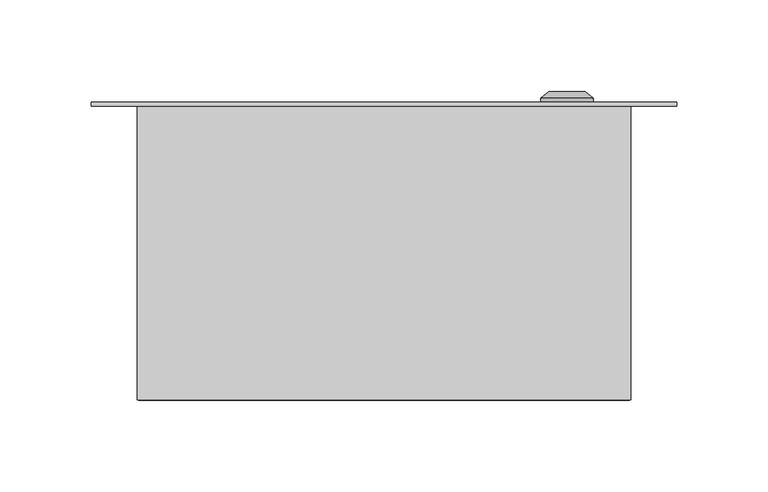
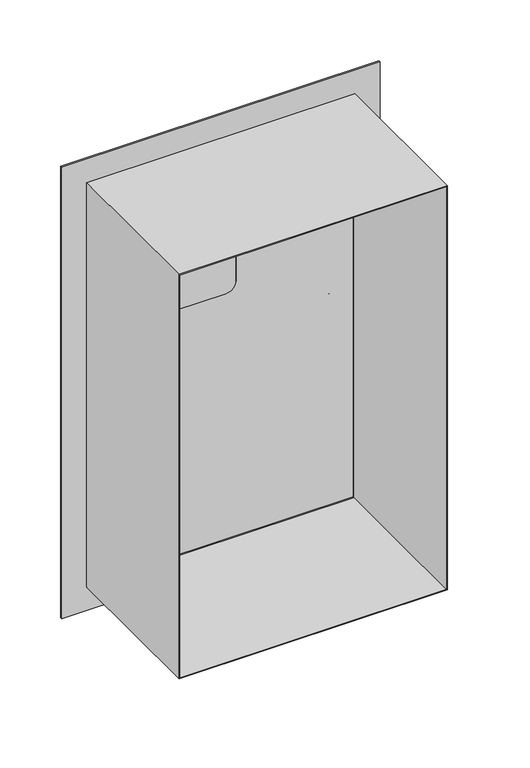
"""IFC4 building model written with IfcOpenShell, lengths in millimetres: proxy geometry, ЩУРВ-1_12 : ЩУРВ-1/12."""

import ifcopenshell
import ifcopenshell.guid

model = None  # the IFC model being written
_history = None  # IfcOwnerHistory: only IFC2X3 demands one
_inside = {}  # id of a spatial element -> (the spatial element, [elements in it])
_under = {}  # id of a project, library or spatial element -> (it, [spatial elements below it])
_declared = {}  # id of a project -> (the project, [libraries it declares])
_typed = {}  # id of a type object -> (the type object, [elements of that type])
_made_of = {}  # id of a material, layer set ... -> (it, [elements and type objects made of it])


def new_model(schema):
    """Start an empty IFC model of exactly this schema.

    Asked for "IFC4X3", IfcOpenShell would pick the latest addendum, in which some entities
    have other attributes; the version numbers below select the first issue.
    IFC2X3 requires an IfcOwnerHistory on every rooted entity: one is made here for all.
    """
    global model, _history
    if schema == "IFC4X3":
        model = ifcopenshell.file(schema_version=(4, 3, 0, 0))
    else:
        model = ifcopenshell.file(schema=schema)
    _inside.clear()
    _under.clear()
    _declared.clear()
    _typed.clear()
    _made_of.clear()
    _history = None
    if model.schema == "IFC2X3":
        org = make("IfcOrganization", Name="unknown")
        user = make(
            "IfcPersonAndOrganization",
            ThePerson=make("IfcPerson", FamilyName="unknown"),
            TheOrganization=org,
        )
        app = make(
            "IfcApplication",
            ApplicationDeveloper=org,
            Version="unknown",
            ApplicationFullName="unknown",
            ApplicationIdentifier="unknown",
        )
        _history = make(
            "IfcOwnerHistory",
            OwningUser=user,
            OwningApplication=app,
            ChangeAction="ADDED",
            CreationDate=0,
        )
    return model


def make(cls, **values):
    """One entity of the class cls with the attributes given. An attribute that is None is left unset."""
    return model.create_entity(
        cls, **{name: value for name, value in values.items() if value is not None}
    )


def rooted(cls, **values):
    """An entity with a GlobalId (a new one), such as an element, a storey or a relation."""
    return make(cls, GlobalId=ifcopenshell.guid.new(), OwnerHistory=_history, **values)


def si_unit(unit_type, name, prefix=None):
    """IfcSIUnit, for example si_unit("LENGTHUNIT", "METRE", prefix="MILLI")."""
    return make("IfcSIUnit", UnitType=unit_type, Prefix=prefix, Name=name)


def assignment(units):
    """IfcUnitAssignment: the units of a project."""
    return None if units is None else make("IfcUnitAssignment", Units=units)


def point(xyz):
    """IfcCartesianPoint."""
    return None if xyz is None else make("IfcCartesianPoint", Coordinates=xyz)


def direction(xyz):
    """IfcDirection."""
    return None if xyz is None else make("IfcDirection", DirectionRatios=xyz)


def frame(location, z_axis=None, x_axis=None):
    """IfcAxis2Placement3D, a coordinate frame: its origin and axes. An axis left out is left unset."""
    return make(
        "IfcAxis2Placement3D",
        Location=point(location),
        Axis=direction(z_axis),
        RefDirection=direction(x_axis),
    )


def frame_2d(location, x_axis=None):
    """IfcAxis2Placement2D, a coordinate frame in the plane: its origin and x axis."""
    return make(
        "IfcAxis2Placement2D", Location=point(location), RefDirection=direction(x_axis)
    )


def origin():
    """The frame at (0, 0, 0) with its axes left unset."""
    return frame((0.0, 0.0, 0.0))


def place(relative_to, where):
    """IfcLocalPlacement: puts the frame where relative to a parent placement (None: the world)."""
    return make(
        "IfcLocalPlacement", PlacementRelTo=relative_to, RelativePlacement=where
    )


def context(
    kind, dimensions, precision=None, world=None, true_north=None, identifier=None
):
    """IfcGeometricRepresentationContext, for example the 3D "Model" context."""
    return make(
        "IfcGeometricRepresentationContext",
        ContextIdentifier=identifier,
        ContextType=kind,
        CoordinateSpaceDimension=dimensions,
        Precision=precision,
        WorldCoordinateSystem=world,
        TrueNorth=true_north,
    )


def project(units=None, contexts=None):
    """IfcProject with its units and contexts."""
    return rooted(
        "IfcProject",
        Name="project",
        RepresentationContexts=contexts,
        UnitsInContext=assignment(units),
    )


def spatial(cls, under=None, at=None, **own):
    """A site, building, storey or space (cls), placed at a placement, below another one or the project."""
    s = rooted(cls, ObjectPlacement=at, **own)
    if under is not None:
        _under.setdefault(under.id(), (under, []))[1].append(s)
    return s


def polyline(points):
    """IfcPolyline through the points."""
    return make("IfcPolyline", Points=[point(p) for p in points])


def circle_curve(where, radius):
    """IfcCircle in the frame where."""
    return make("IfcCircle", Position=where, Radius=radius)


def trimmed(basis, trim1, trim2, sense, master):
    """IfcTrimmedCurve: the piece of a basis curve between two trims."""
    return make(
        "IfcTrimmedCurve",
        BasisCurve=basis,
        Trim1=trim1,
        Trim2=trim2,
        SenseAgreement=sense,
        MasterRepresentation=master,
    )


def segment(curve, same_sense, transition):
    """IfcCompositeCurveSegment."""
    return make(
        "IfcCompositeCurveSegment",
        Transition=transition,
        SameSense=same_sense,
        ParentCurve=curve,
    )


def composite_curve(segments, self_intersect=None):
    """IfcCompositeCurve: segments joined end to end."""
    return make("IfcCompositeCurve", Segments=segments, SelfIntersect=self_intersect)


def outline(outer, holes=None, kind="AREA"):
    """IfcArbitraryClosedProfileDef: a profile drawn as a closed curve; with holes, ...WithVoids."""
    if holes is None:
        return make("IfcArbitraryClosedProfileDef", ProfileType=kind, OuterCurve=outer)
    return make(
        "IfcArbitraryProfileDefWithVoids",
        ProfileType=kind,
        OuterCurve=outer,
        InnerCurves=holes,
    )


def extrude(swept, where, along, depth):
    """IfcExtrudedAreaSolid: the profile swept, set in the frame where, extruded along a direction by depth."""
    return make(
        "IfcExtrudedAreaSolid",
        SweptArea=swept,
        Position=where,
        ExtrudedDirection=direction(along),
        Depth=depth,
    )


def shape(context_of_items, identifier, shape_type, items):
    """IfcShapeRepresentation: the items that make up one representation, for example the "Body"."""
    return make(
        "IfcShapeRepresentation",
        ContextOfItems=context_of_items,
        RepresentationIdentifier=identifier,
        RepresentationType=shape_type,
        Items=items,
    )


def source(mapping_origin, context_of_items, identifier, shape_type, items):
    """IfcRepresentationMap: a shape defined once, which mapped items show again and again."""
    return make(
        "IfcRepresentationMap",
        MappingOrigin=mapping_origin,
        MappedRepresentation=shape(context_of_items, identifier, shape_type, items),
    )


def transform(
    local_origin,
    x_axis=None,
    y_axis=None,
    z_axis=None,
    scale=None,
    scale2=None,
    scale3=None,
    uniform=True,
):
    """IfcCartesianTransformationOperator3D, or its non-uniform kind. x_axis, y_axis, z_axis: its Axis1, 2, 3."""
    if uniform:
        return make(
            "IfcCartesianTransformationOperator3D",
            Axis1=direction(x_axis),
            Axis2=direction(y_axis),
            LocalOrigin=point(local_origin),
            Scale=scale,
            Axis3=direction(z_axis),
        )
    return make(
        "IfcCartesianTransformationOperator3DnonUniform",
        Axis1=direction(x_axis),
        Axis2=direction(y_axis),
        LocalOrigin=point(local_origin),
        Scale=scale,
        Axis3=direction(z_axis),
        Scale2=scale2,
        Scale3=scale3,
    )


def mapped(mapping_source, mapping_target):
    """IfcMappedItem: shows the shape of a source again, moved by a transform."""
    return make(
        "IfcMappedItem", MappingSource=mapping_source, MappingTarget=mapping_target
    )


def made_of(thing, what):
    """Note that an element or type object is made of a material, layer set ...; save() writes the relation."""
    if what is not None:
        _made_of.setdefault(what.id(), (what, []))[1].append(thing)
    return thing


def element(
    cls,
    number,
    at=None,
    inside=None,
    cuts=None,
    type_object=None,
    material=None,
    context=None,
    identifier="Body",
    shape_type=None,
    held_by="IfcProductDefinitionShape",
    body=None,
    shapes=None,
    **own,
):
    """One element of the class cls, such as IfcWall. Its Tag is "e" and its number.

    at: its placement. inside: the storey or other place that contains it. cuts: it is an
    opening in that element (IfcRelVoidsElement). A single representation is given by context,
    identifier, shape_type and body (its items); several are given by shapes. held_by: the class
    of the entity that holds the representations. save() writes the other relations.
    """
    e = rooted(cls, Tag="e%d" % number, ObjectPlacement=at, **own)
    if body is not None:
        shapes = [shape(context, identifier, shape_type, body)]
    if shapes is not None:
        e.Representation = make(held_by, Representations=shapes)
    if inside is not None:
        _inside.setdefault(inside.id(), (inside, []))[1].append(e)
    if cuts is not None:
        rooted(
            "IfcRelVoidsElement", RelatingBuildingElement=cuts, RelatedOpeningElement=e
        )
    if type_object is not None:
        _typed.setdefault(type_object.id(), (type_object, []))[1].append(e)
    return made_of(e, material)


def aggregate(whole, parts):
    """IfcRelAggregates: a whole, such as a stair, and the parts it consists of."""
    return rooted("IfcRelAggregates", RelatingObject=whole, RelatedObjects=parts)


def save(model, path):
    """Write the relations noted so far, then the file.

    IfcRelAggregates (storeys below a building ...), IfcRelContainedInSpatialStructure (elements
    in a storey), IfcRelDefinesByType, IfcRelAssociatesMaterial and IfcRelDeclares: one each for
    every whole, place, type object, material and project.
    """
    for whole, parts in _under.values():
        aggregate(whole, parts)
    for where, things in _inside.values():
        rooted(
            "IfcRelContainedInSpatialStructure",
            RelatedElements=things,
            RelatingStructure=where,
        )
    for kind, things in _typed.values():
        rooted("IfcRelDefinesByType", RelatedObjects=things, RelatingType=kind)
    for what, things in _made_of.values():
        rooted("IfcRelAssociatesMaterial", RelatedObjects=things, RelatingMaterial=what)
    for by, libraries in _declared.values():
        rooted("IfcRelDeclares", RelatingContext=by, RelatedDefinitions=libraries)
    model.write(path)


def plane_surface(at):
    """IfcPlane: the flat surface through the origin of the frame at, square to its z axis."""
    return make("IfcPlane", Position=at)


def cylinder_surface(at, radius):
    """IfcCylindricalSurface: all points at the distance radius from the z axis of the frame at."""
    return make("IfcCylindricalSurface", Position=at, Radius=radius)


def revolved_surface(curve, axis_point, axis_direction):
    """IfcSurfaceOfRevolution: the curve turned about the line through axis_point along axis_direction."""
    return make(
        "IfcSurfaceOfRevolution",
        SweptCurve=make("IfcArbitraryOpenProfileDef", ProfileType="CURVE", Curve=curve),
        AxisPosition=make("IfcAxis1Placement", Location=point(axis_point), Axis=direction(axis_direction)),
    )


def advanced_brep(points, edges, surfaces, faces):
    """IfcAdvancedBrep: a solid bounded by faces that lie on surfaces and meet in shared edges.

    An edge is (start, end): straight between two places in points (the first is 0);
    or (start, end, curve); or (start, end, curve, False) where it runs against its curve.
    A face is (place in surfaces, loops), or (place, loops, False) where it looks against
    its surface's normal. A loop lists edges by number (the first is 1), with a minus sign
    where the edge is run from its end to its start. The first loop is the outer one.
    """
    corners = [point(p) for p in points]
    vertices = [make("IfcVertexPoint", VertexGeometry=c) for c in corners]
    made = []
    for start, end, *more in edges:
        made.append(
            make(
                "IfcEdgeCurve",
                EdgeStart=vertices[start],
                EdgeEnd=vertices[end],
                EdgeGeometry=more[0] if more else make("IfcPolyline", Points=[corners[start], corners[end]]),
                SameSense=more[1] if len(more) > 1 else True,
            )
        )
    hull = []
    for where, loops, *sense in faces:
        bounds = []
        for j, loop in enumerate(loops):
            ring = [make("IfcOrientedEdge", EdgeElement=made[abs(k) - 1], Orientation=k > 0) for k in loop]
            bounds.append(
                make(
                    "IfcFaceOuterBound" if j == 0 else "IfcFaceBound",
                    Bound=make("IfcEdgeLoop", EdgeList=ring),
                    Orientation=True,
                )
            )
        hull.append(make("IfcAdvancedFace", Bounds=bounds, FaceSurface=surfaces[where], SameSense=sense[0] if sense else True))
    return make("IfcAdvancedBrep", Outer=make("IfcClosedShell", CfsFaces=hull))


def electrical_equipment_fb14bdcf(model_context):
    return source(origin(), model_context, "Body", "SolidModel", [
        extrude(outline(composite_curve([segment(trimmed(circle_curve(frame_2d((353.0, -75.0033905)), 10.0), [point((363.0, -75.0033905))], [point((353.0, -85.0033905))], False, "CARTESIAN"), True, "CONTINUOUS"), segment(polyline([(353.0, -85.0033905), (298.0, -85.0033905)]), True, "CONTINUOUS"), segment(trimmed(circle_curve(frame_2d((298.0, -75.0033905)), 10.0), [point((298.0, -85.0033905))], [point((288.0, -75.0033905))], False, "CARTESIAN"), True, "CONTINUOUS"), segment(polyline([(288.0, -75.0033905), (288.0, 4.9966095)]), True, "CONTINUOUS"), segment(trimmed(circle_curve(frame_2d((298.0, 4.9966095)), 10.0), [point((288.0, 4.9966095))], [point((298.0, 14.9966095))], False, "CARTESIAN"), True, "CONTINUOUS"), segment(polyline([(298.0, 14.9966095), (353.0, 14.9966095)]), True, "CONTINUOUS"), segment(trimmed(circle_curve(frame_2d((353.0, 4.9966095)), 10.0), [point((353.0, 14.9966095))], [point((363.0, 4.9966095))], False, "CARTESIAN"), True, "CONTINUOUS"), segment(polyline([(363.0, 4.9966095), (363.0, -75.0033905)]), True, "CONTINUOUS")], self_intersect=False)), frame((0.0, 0.0, 0.0), z_axis=(0.0, 1.0, 0.0), x_axis=(0.0, 0.0, 1.0)), (0.0, 0.0, 1.0), 2.0),
        extrude(outline(polyline([(455.0, -135.0), (25.0, -135.0), (25.0, 135.0), (455.0, 135.0), (455.0, -135.0)]), holes=[polyline([(454.0, -134.0), (454.0, 134.0), (26.0, 134.0), (26.0, -134.0), (454.0, -134.0)])]), frame((0.0, -161.0, 0.0), z_axis=(0.0, 1.0, 0.0), x_axis=(0.0, 0.0, 1.0)), (0.0, 0.0, 1.0), 161.0),
        extrude(outline(polyline([(453.0, -133.0), (27.0, -133.0), (27.0, 133.0), (453.0, 133.0), (453.0, -133.0)]), holes=[composite_curve([segment(polyline([(363.0, -75.0033905), (363.0, 4.9966095)]), True, "CONTINUOUS"), segment(trimmed(circle_curve(frame_2d((353.0, 4.9966095)), 10.0), [point((363.0, 4.9966095))], [point((353.0, 14.9966095))], True, "CARTESIAN"), True, "CONTINUOUS"), segment(polyline([(353.0, 14.9966095), (298.0, 14.9966095)]), True, "CONTINUOUS"), segment(trimmed(circle_curve(frame_2d((298.0, 4.9966095)), 10.0), [point((298.0, 14.9966095))], [point((288.0, 4.9966095))], True, "CARTESIAN"), True, "CONTINUOUS"), segment(polyline([(288.0, 4.9966095), (288.0, -75.0033905)]), True, "CONTINUOUS"), segment(trimmed(circle_curve(frame_2d((298.0, -75.0033905)), 10.0), [point((288.0, -75.0033905))], [point((298.0, -85.0033905))], True, "CARTESIAN"), True, "CONTINUOUS"), segment(polyline([(298.0, -85.0033905), (353.0, -85.0033905)]), True, "CONTINUOUS"), segment(trimmed(circle_curve(frame_2d((353.0, -75.0033905)), 10.0), [point((353.0, -85.0033905))], [point((363.0, -75.0033905))], True, "CARTESIAN"), True, "CONTINUOUS")], self_intersect=False)]), frame((0.0, 0.0, 0.0), z_axis=(0.0, 1.0, 0.0), x_axis=(0.0, 0.0, 1.0)), (0.0, 0.0, 1.0), 2.0),
        extrude(outline(polyline([(480.0, -160.0), (0.0, -160.0), (0.0, 160.0), (480.0, 160.0), (480.0, -160.0)]), holes=[polyline([(455.0, -135.0), (455.0, 135.0), (25.0, 135.0), (25.0, -135.0), (455.0, -135.0)])]), frame((0.0, 0.0, 0.0), z_axis=(0.0, 1.0, 0.0), x_axis=(0.0, 0.0, 1.0)), (0.0, 0.0, 1.0), 2.0),
        advanced_brep(
        [(85.669873, 2.0, 240.0), (114.330127, 2.0, 240.0), (100.0, 2.0, 240.0), (85.669873, 4.366592, 240.0), (114.330127, 4.366592, 240.0), (90.0, 8.0, 240.0), (110.0, 8.0, 240.0), (98.1080471, 8.0, 240.0), (101.8919529, 8.0, 240.0), (98.1080471, 6.9822294, 240.0), (101.8919529, 6.9822294, 240.0), (100.0, 6.9822294, 240.0)],
        [
            (0, 1, circle_curve(frame((100.0, 2.0, 240.0), z_axis=(0.0, -1.0, 0.0), x_axis=(1.0, 0.0, 0.0)), 14.330127)),
            (1, 2),
            (2, 0),
            (1, 0, circle_curve(frame((100.0, 2.0, 240.0), z_axis=(0.0, -1.0, 0.0), x_axis=(1.0, 0.0, 0.0)), 14.330127)),
            (3, 4, circle_curve(frame((100.0, 4.366592, 240.0), z_axis=(0.0, -1.0, 0.0), x_axis=(1.0, 0.0, 0.0)), 14.330127)),
            (4, 1),
            (0, 3),
            (4, 3, circle_curve(frame((100.0, 4.366592, 240.0), z_axis=(0.0, -1.0, 0.0), x_axis=(1.0, 0.0, 0.0)), 14.330127)),
            (5, 6, circle_curve(frame((100.0, 8.0, 240.0), z_axis=(0.0, -1.0, 0.0), x_axis=(1.0, 0.0, 0.0)), 10.0)),
            (6, 4),
            (3, 5),
            (6, 5, circle_curve(frame((100.0, 8.0, 240.0), z_axis=(0.0, -1.0, 0.0), x_axis=(1.0, 0.0, 0.0)), 10.0)),
            (7, 8, circle_curve(frame((100.0, 8.0, 240.0), z_axis=(0.0, -1.0, 0.0), x_axis=(1.0, 0.0, 0.0)), 1.8919529)),
            (8, 6),
            (5, 7),
            (8, 7, circle_curve(frame((100.0, 8.0, 240.0), z_axis=(0.0, -1.0, 0.0), x_axis=(1.0, 0.0, 0.0)), 1.8919529)),
            (9, 10, circle_curve(frame((100.0, 6.9822294, 240.0), z_axis=(0.0, -1.0, 0.0), x_axis=(1.0, 0.0, 0.0)), 1.8919529)),
            (10, 8),
            (7, 9),
            (10, 9, circle_curve(frame((100.0, 6.9822294, 240.0), z_axis=(0.0, -1.0, 0.0), x_axis=(1.0, 0.0, 0.0)), 1.8919529)),
            (11, 10),
            (9, 11),
        ],
        [
            plane_surface(frame((100.0, 2.0, 240.0), z_axis=(0.0, -1.0, 0.0), x_axis=(1.0, 0.0, 0.0))),
            cylinder_surface(frame((100.0, 15.1348851, 240.0), z_axis=(0.0, 1.0, 0.0), x_axis=(1.0, 0.0, 0.0)), 14.330127),
            revolved_surface(polyline([(114.330127, 4.366592, 240.0), (110.0, 8.0, 240.0)]), (100.0, 15.1348851, 240.0), (0.0, 1.0, 0.0)),
            plane_surface(frame((100.0, 8.0, 240.0), z_axis=(0.0, 1.0, 0.0), x_axis=(1.0, 0.0, 0.0))),
            revolved_surface(polyline([(101.8919529, 8.0, 240.0), (101.8919529, 6.9822294, 240.0)]), (100.0, 15.1348851, 240.0), (0.0, 1.0, 0.0)),
            plane_surface(frame((100.0, 6.9822294, 240.0), z_axis=(0.0, 1.0, 0.0), x_axis=(1.0, 0.0, 0.0))),
        ],
        [
            (0, [[1, 2, 3]]),
            (0, [[4, -3, -2]]),
            (1, [[5, 6, -1, 7]]),
            (1, [[8, -7, -4, -6]]),
            (2, [[9, 10, -5, 11]]),
            (2, [[12, -11, -8, -10]]),
            (3, [[13, 14, -9, 15]]),
            (3, [[16, -15, -12, -14]]),
            (4, [[17, 18, -13, 19]]),
            (4, [[20, -19, -16, -18]]),
            (5, [[21, -17, 22]]),
            (5, [[-22, -20, -21]]),
        ],
    ),
        extrude(outline(polyline([(135.0, 0.0), (-135.0, 0.0), (-135.0, 2.0), (135.0, 2.0), (135.0, 0.0)])), frame((0.0, 0.0, 25.0), z_axis=(0.0, 0.0, 1.0), x_axis=(1.0, 0.0, 0.0)), (0.0, 0.0, 1.0), 430.0),
    ])


if __name__ == "__main__":
    model = new_model("IFC4")
    model_context = context("Model", 3, world=origin())
    ifc_project = project(units=[si_unit("LENGTHUNIT", "METRE", prefix="MILLI")], contexts=[model_context])
    site = spatial("IfcSite", under=ifc_project)
    building = spatial("IfcBuilding", under=site)
    placement = place(None, origin())
    electrical_equipment_shape = electrical_equipment_fb14bdcf(model_context)
    element("IfcBuildingElementProxy", 1, Name="ЩУРВ-1_12 : ЩУРВ-1/12", ObjectType="ЩУРВ-1_12 : ЩУРВ-1/12", at=placement, inside=building, context=model_context, shape_type="MappedRepresentation", body=[
        mapped(electrical_equipment_shape, transform((0.0, 0.0, 0.0), x_axis=(1.0, 0.0, 0.0), y_axis=(0.0, 1.0, 0.0), z_axis=(0.0, 0.0, 1.0))),
    ])
    save(model, "model.ifc")
